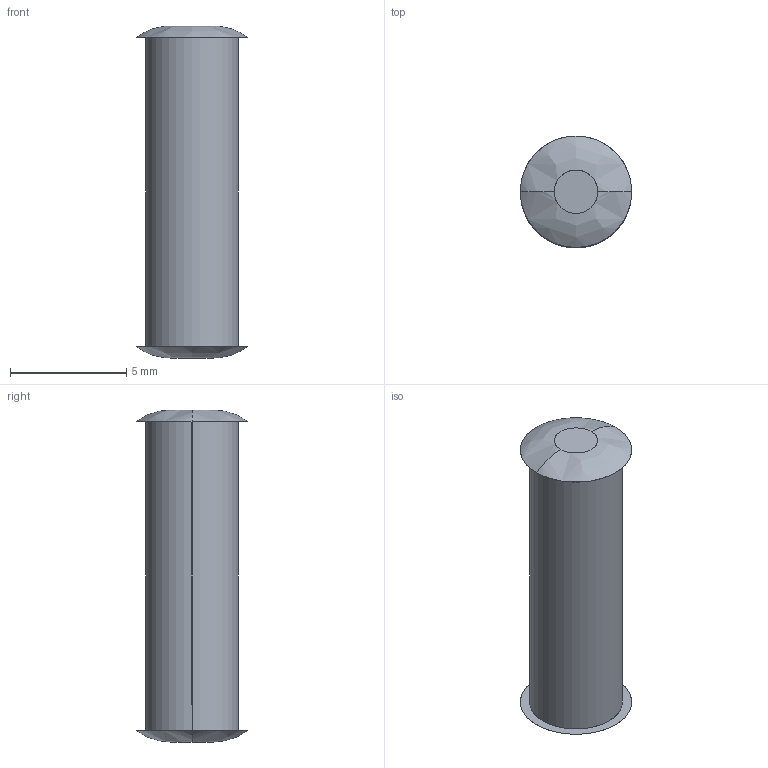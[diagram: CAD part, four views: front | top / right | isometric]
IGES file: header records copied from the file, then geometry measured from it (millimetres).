
Start section: SolidWorks IGES FILE using analytic representation for surfaces
Global section: file name: C:\Documents and Settings\lecoutey\Bureau\GR\58.040.10.IGS; native system: SolidWorks 2004 by SolidWorks Corporation; preprocessor: Version 5.3; author: lecoutey; date: 050404.180153; units: millimetre
Bounding box: 4.8 x 4.8 x 14.3 mm (x, y, z)
Surface area: 217.3 mm2 (no closed solid volume)
Topology: 0 solids, 0 shells, 10 faces, 216 edges, 216 vertices
Faces by surface type: bspline 8, revolution 2
